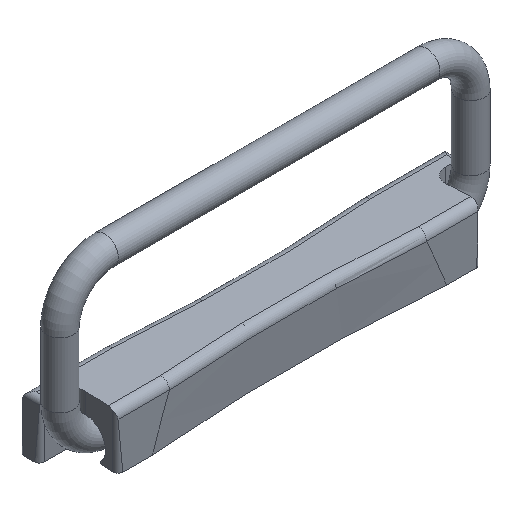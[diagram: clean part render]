
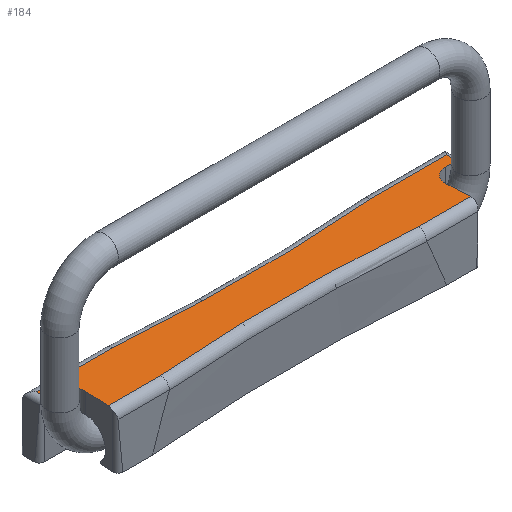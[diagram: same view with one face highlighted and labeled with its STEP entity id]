
A CAD part, isometric view. The second image highlights one B-rep face of the part: STEP entity #184.
In plain terms, the highlighted planar face has unit normal (0, 0, 1).
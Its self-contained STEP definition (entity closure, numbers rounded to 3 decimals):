
#184 = ADVANCED_FACE( '', ( #269 ), #270, .T. );
#269 = FACE_OUTER_BOUND( '', #421, .T. );
#270 = PLANE( '', #422 );
#421 = EDGE_LOOP( '', ( #658, #659, #660, #661, #662, #663, #664, #665, #666, #667, #668, #669, #670, #671 ) );
#422 = AXIS2_PLACEMENT_3D( '', #672, #673, #674 );
#658 = ORIENTED_EDGE( '', *, *, #1121, .T. );
#659 = ORIENTED_EDGE( '', *, *, #1124, .F. );
#660 = ORIENTED_EDGE( '', *, *, #1105, .T. );
#661 = ORIENTED_EDGE( '', *, *, #1104, .F. );
#662 = ORIENTED_EDGE( '', *, *, #1119, .T. );
#663 = ORIENTED_EDGE( '', *, *, #1125, .F. );
#664 = ORIENTED_EDGE( '', *, *, #1126, .T. );
#665 = ORIENTED_EDGE( '', *, *, #1127, .F. );
#666 = ORIENTED_EDGE( '', *, *, #1128, .T. );
#667 = ORIENTED_EDGE( '', *, *, #1129, .F. );
#668 = ORIENTED_EDGE( '', *, *, #1130, .T. );
#669 = ORIENTED_EDGE( '', *, *, #1087, .T. );
#670 = ORIENTED_EDGE( '', *, *, #1131, .T. );
#671 = ORIENTED_EDGE( '', *, *, #1080, .F. );
#672 = CARTESIAN_POINT( '', ( -60.5, -4.4, 16. ) );
#673 = DIRECTION( '', ( 0., 0., 1. ) );
#674 = DIRECTION( '', ( 1., 0., 0. ) );
#1080 = EDGE_CURVE( '', #1256, #1248, #1258, .T. );
#1087 = EDGE_CURVE( '', #1272, #1269, #1273, .T. );
#1104 = EDGE_CURVE( '', #1302, #1297, #1304, .T. );
#1105 = EDGE_CURVE( '', #1305, #1297, #1306, .T. );
#1119 = EDGE_CURVE( '', #1302, #1328, #1330, .T. );
#1121 = EDGE_CURVE( '', #1256, #1332, #1334, .T. );
#1124 = EDGE_CURVE( '', #1305, #1332, #1338, .T. );
#1125 = EDGE_CURVE( '', #1339, #1328, #1340, .T. );
#1126 = EDGE_CURVE( '', #1339, #1341, #1342, .T. );
#1127 = EDGE_CURVE( '', #1343, #1341, #1344, .T. );
#1128 = EDGE_CURVE( '', #1343, #1345, #1346, .T. );
#1129 = EDGE_CURVE( '', #1347, #1345, #1348, .T. );
#1130 = EDGE_CURVE( '', #1347, #1272, #1349, .T. );
#1131 = EDGE_CURVE( '', #1269, #1248, #1350, .T. );
#1248 = VERTEX_POINT( '', #1621 );
#1256 = VERTEX_POINT( '', #1650 );
#1258 = CIRCLE( '', #1667, 465.75 );
#1269 = VERTEX_POINT( '', #1683 );
#1272 = VERTEX_POINT( '', #1697 );
#1273 = LINE( '', #1698, #1699 );
#1297 = VERTEX_POINT( '', #1751 );
#1302 = VERTEX_POINT( '', #1776 );
#1304 = CIRCLE( '', #1779, 4.034 );
#1305 = VERTEX_POINT( '', #1780 );
#1306 = LINE( '', #1781, #1782 );
#1328 = VERTEX_POINT( '', #1862 );
#1330 = LINE( '', #1864, #1865 );
#1332 = VERTEX_POINT( '', #1867 );
#1334 = LINE( '', #1880, #1881 );
#1338 = LINE( '', #1886, #1887 );
#1339 = VERTEX_POINT( '', #1888 );
#1340 = LINE( '', #1889, #1890 );
#1341 = VERTEX_POINT( '', #1891 );
#1342 = CIRCLE( '', #1892, 465.75 );
#1343 = VERTEX_POINT( '', #1893 );
#1344 = LINE( '', #1894, #1895 );
#1345 = VERTEX_POINT( '', #1896 );
#1346 = LINE( '', #1897, #1898 );
#1347 = VERTEX_POINT( '', #1899 );
#1348 = CIRCLE( '', #1900, 4.034 );
#1349 = LINE( '', #1901, #1902 );
#1350 = LINE( '', #1903, #1904 );
#1621 = CARTESIAN_POINT( '', ( 37.684, -2.973, 16. ) );
#1650 = CARTESIAN_POINT( '', ( -37.684, -2.973, 16. ) );
#1667 = AXIS2_PLACEMENT_3D( '', #2160, #2161, #2162 );
#1683 = CARTESIAN_POINT( '', ( 59.993, -2.973, 16. ) );
#1697 = CARTESIAN_POINT( '', ( 59.993, -5.9, 16. ) );
#1698 = CARTESIAN_POINT( '', ( 59.993, -20., 16. ) );
#1699 = VECTOR( '', #2171, 1000. );
#1751 = CARTESIAN_POINT( '', ( -56.648, -5.9, 16. ) );
#1776 = CARTESIAN_POINT( '', ( -52.618, -10.119, 16. ) );
#1779 = AXIS2_PLACEMENT_3D( '', #2198, #2199, #2200 );
#1780 = CARTESIAN_POINT( '', ( -59.993, -5.9, 16. ) );
#1781 = CARTESIAN_POINT( '', ( -60.5, -5.9, 16. ) );
#1782 = VECTOR( '', #2201, 1000. );
#1862 = CARTESIAN_POINT( '', ( -52.934, -17.027, 16. ) );
#1864 = CARTESIAN_POINT( '', ( -52.618, -10.119, 16. ) );
#1865 = VECTOR( '', #2216, 1000. );
#1867 = CARTESIAN_POINT( '', ( -59.993, -2.973, 16. ) );
#1880 = CARTESIAN_POINT( '', ( 62.5, -2.973, 16. ) );
#1881 = VECTOR( '', #2217, 1000. );
#1886 = CARTESIAN_POINT( '', ( -59.993, -20., 16. ) );
#1887 = VECTOR( '', #2222, 1000. );
#1888 = CARTESIAN_POINT( '', ( -37.684, -17.027, 16. ) );
#1889 = CARTESIAN_POINT( '', ( 62.5, -17.027, 16. ) );
#1890 = VECTOR( '', #2223, 1000. );
#1891 = CARTESIAN_POINT( '', ( 37.684, -17.027, 16. ) );
#1892 = AXIS2_PLACEMENT_3D( '', #2224, #2225, #2226 );
#1893 = CARTESIAN_POINT( '', ( 52.934, -17.027, 16. ) );
#1894 = CARTESIAN_POINT( '', ( 62.5, -17.027, 16. ) );
#1895 = VECTOR( '', #2227, 1000. );
#1896 = CARTESIAN_POINT( '', ( 52.618, -10.119, 16. ) );
#1897 = CARTESIAN_POINT( '', ( 52.998, -18.433, 16. ) );
#1898 = VECTOR( '', #2228, 1000. );
#1899 = CARTESIAN_POINT( '', ( 56.648, -5.9, 16. ) );
#1900 = AXIS2_PLACEMENT_3D( '', #2229, #2230, #2231 );
#1901 = CARTESIAN_POINT( '', ( 56.648, -5.9, 16. ) );
#1902 = VECTOR( '', #2232, 1000. );
#1903 = CARTESIAN_POINT( '', ( 62.5, -2.973, 16. ) );
#1904 = VECTOR( '', #2233, 1000. );
#2160 = CARTESIAN_POINT( '', ( 0., 461.25, 16. ) );
#2161 = DIRECTION( '', ( 0., 0., 1. ) );
#2162 = DIRECTION( '', ( 1., 0., 0. ) );
#2171 = DIRECTION( '', ( 0., 1., 0. ) );
#2198 = CARTESIAN_POINT( '', ( -56.648, -9.934, 16. ) );
#2199 = DIRECTION( '', ( 0., 0., 1. ) );
#2200 = DIRECTION( '', ( 1., 0., 0. ) );
#2201 = DIRECTION( '', ( 1., 0., 0. ) );
#2216 = DIRECTION( '', ( -0.046, -0.999, 0. ) );
#2217 = DIRECTION( '', ( -1., 0., 0. ) );
#2222 = DIRECTION( '', ( 0., 1., 0. ) );
#2223 = DIRECTION( '', ( -1., 0., 0. ) );
#2224 = CARTESIAN_POINT( '', ( 0., -481.25, 16. ) );
#2225 = DIRECTION( '', ( 0., 0., -1. ) );
#2226 = DIRECTION( '', ( -1., 0., 0. ) );
#2227 = DIRECTION( '', ( -1., 0., 0. ) );
#2228 = DIRECTION( '', ( -0.046, 0.999, 0. ) );
#2229 = CARTESIAN_POINT( '', ( 56.648, -9.934, 16. ) );
#2230 = DIRECTION( '', ( 0., 0., 1. ) );
#2231 = DIRECTION( '', ( 1., 0., 0. ) );
#2232 = DIRECTION( '', ( 1., 0., 0. ) );
#2233 = DIRECTION( '', ( -1., 0., 0. ) );
